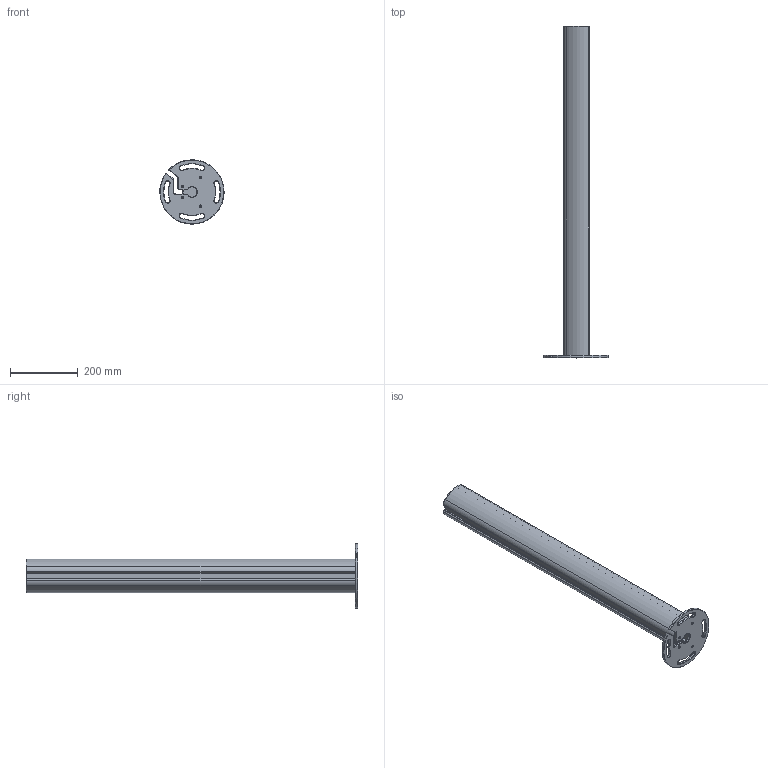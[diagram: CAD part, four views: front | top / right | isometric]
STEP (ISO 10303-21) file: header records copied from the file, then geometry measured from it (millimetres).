
FILE_DESCRIPTION((''),'2;1');
FILE_NAME('ESQC_ASM','2022-07-19T11:54:49',('18822879468'),(''),'CREO PARAMETRIC BY PTC INC, 2019010','CREO PARAMETRIC BY PTC INC, 2019010','');
FILE_SCHEMA(('CONFIG_CONTROL_DESIGN'));
Length unit declared in the file: millimetre
Products named in the file (5): 00; _-0001; _-0002; 000; ESQC_ASM
Assembly tree (4 placements, depth 2):
  ESQC_ASM
    00
    _-0001
    _-0002
    000
Bounding box: 189.81 x 980 x 189.85 mm (x, y, z)
Volume: 1493375.2 mm3; surface area: 780272.2 mm2
Topology: 4 solids, 4 shells, 239 faces, 613 edges, 378 vertices
Faces by surface type: cylinder 98, plane 73, cone 68
Entity records: 7388 total; most frequent: DIRECTION 1365, CARTESIAN_POINT 1235, ORIENTED_EDGE 1218, EDGE_CURVE 609, AXIS2_PLACEMENT_3D 508, VERTEX_POINT 378, VECTOR 349, LINE 349
